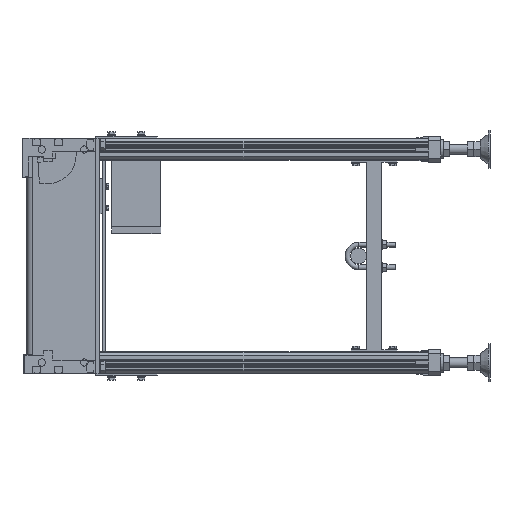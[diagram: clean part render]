
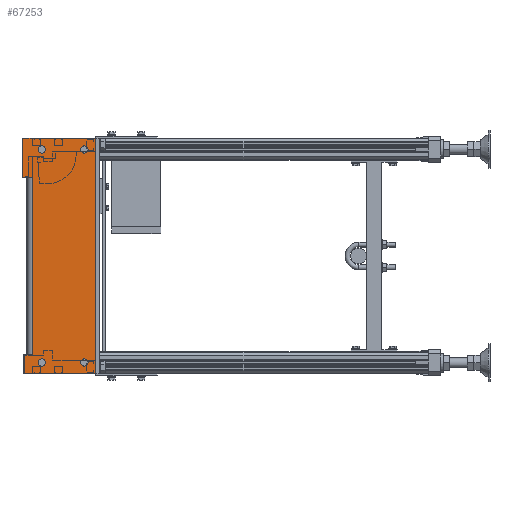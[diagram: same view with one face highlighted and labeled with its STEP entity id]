
A CAD part, left-side view. The second image highlights one B-rep face of the part: STEP entity #67253.
In plain terms, the highlighted planar face has unit normal (-1, 0, 0).
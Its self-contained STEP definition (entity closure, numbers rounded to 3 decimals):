
#822 = VECTOR ( 'NONE', #50526, 1000. ) ;
#983 = EDGE_CURVE ( 'NONE', #5136, #75963, #5072, .T. ) ;
#1112 = AXIS2_PLACEMENT_3D ( 'NONE', #12936, #57883, #18938 ) ;
#1408 = EDGE_CURVE ( 'NONE', #75963, #5136, #49116, .T. ) ;
#2576 = CARTESIAN_POINT ( 'NONE',  ( -1.2, -9.1, 143.75 ) ) ;
#2669 = VERTEX_POINT ( 'NONE', #2576 ) ;
#3603 = ORIENTED_EDGE ( 'NONE', *, *, #48620, .F. ) ;
#4556 = LINE ( 'NONE', #67458, #51443 ) ;
#4587 = CIRCLE ( 'NONE', #50123, 5.9 ) ;
#4970 = ORIENTED_EDGE ( 'NONE', *, *, #32607, .F. ) ;
#4993 = LINE ( 'NONE', #10324, #72219 ) ;
#5072 = CIRCLE ( 'NONE', #20540, 5.9 ) ;
#5136 = VERTEX_POINT ( 'NONE', #14091 ) ;
#5317 = ORIENTED_EDGE ( 'NONE', *, *, #17279, .F. ) ;
#5731 = LINE ( 'NONE', #27690, #29211 ) ;
#6319 = CARTESIAN_POINT ( 'NONE',  ( -1.2, -24.1, -156.25 ) ) ;
#6546 = EDGE_CURVE ( 'NONE', #48774, #63600, #28401, .T. ) ;
#6921 = CARTESIAN_POINT ( 'NONE',  ( -1.2, -24.1, 188.75 ) ) ;
#7342 = VERTEX_POINT ( 'NONE', #75513 ) ;
#7698 = CIRCLE ( 'NONE', #76779, 5.9 ) ;
#8078 = FACE_BOUND ( 'NONE', #41870, .T. ) ;
#9465 = ORIENTED_EDGE ( 'NONE', *, *, #6546, .F. ) ;
#10324 = CARTESIAN_POINT ( 'NONE',  ( -1.2, 6.4, 143.75 ) ) ;
#12306 = CARTESIAN_POINT ( 'NONE',  ( -1.2, 6.4, 207.25 ) ) ;
#12530 = AXIS2_PLACEMENT_3D ( 'NONE', #55651, #16384, #74749 ) ;
#12936 = CARTESIAN_POINT ( 'NONE',  ( -1.2, -93.1, -156.25 ) ) ;
#12990 = VERTEX_POINT ( 'NONE', #46345 ) ;
#13634 = VERTEX_POINT ( 'NONE', #51428 ) ;
#14091 = CARTESIAN_POINT ( 'NONE',  ( -1.2, -93.1, 194.65 ) ) ;
#14435 = ORIENTED_EDGE ( 'NONE', *, *, #82690, .F. ) ;
#15644 = AXIS2_PLACEMENT_3D ( 'NONE', #58422, #33199, #19467 ) ;
#15927 = DIRECTION ( 'NONE',  ( 0., -1., 0. ) ) ;
#16384 = DIRECTION ( 'NONE',  ( -1., 0., 0. ) ) ;
#17279 = EDGE_CURVE ( 'NONE', #18487, #40413, #7698, .T. ) ;
#17378 = CARTESIAN_POINT ( 'NONE',  ( -1.2, 4.4, -174.75 ) ) ;
#17420 = DIRECTION ( 'NONE',  ( 0., 0., 1. ) ) ;
#18487 = VERTEX_POINT ( 'NONE', #74914 ) ;
#18793 = EDGE_CURVE ( 'NONE', #13634, #48774, #65510, .T. ) ;
#18938 = DIRECTION ( 'NONE',  ( 0., 0., -1. ) ) ;
#19467 = DIRECTION ( 'NONE',  ( 0., 0., 1. ) ) ;
#20540 = AXIS2_PLACEMENT_3D ( 'NONE', #76185, #57079, #37237 ) ;
#20704 = CARTESIAN_POINT ( 'NONE',  ( -1.2, 6.4, 143.75 ) ) ;
#22334 = EDGE_CURVE ( 'NONE', #75127, #2669, #66317, .T. ) ;
#22483 = ORIENTED_EDGE ( 'NONE', *, *, #50871, .F. ) ;
#23143 = ORIENTED_EDGE ( 'NONE', *, *, #22334, .F. ) ;
#24041 = EDGE_CURVE ( 'NONE', #74984, #75127, #4556, .T. ) ;
#25556 = CARTESIAN_POINT ( 'NONE',  ( -1.2, -24.1, 194.65 ) ) ;
#26336 = DIRECTION ( 'NONE',  ( 0., 0., 1. ) ) ;
#26438 = FACE_BOUND ( 'NONE', #70933, .T. ) ;
#27690 = CARTESIAN_POINT ( 'NONE',  ( -1.2, -9.1, 143.75 ) ) ;
#27872 = CARTESIAN_POINT ( 'NONE',  ( -1.2, -93.1, -150.35 ) ) ;
#28401 = LINE ( 'NONE', #84108, #822 ) ;
#28476 = FACE_OUTER_BOUND ( 'NONE', #71378, .T. ) ;
#29211 = VECTOR ( 'NONE', #40491, 1000. ) ;
#30230 = DIRECTION ( 'NONE',  ( 0., 0., 1. ) ) ;
#30493 = FACE_BOUND ( 'NONE', #62812, .T. ) ;
#30800 = CARTESIAN_POINT ( 'NONE',  ( -1.2, -24.1, 182.85 ) ) ;
#31086 = ORIENTED_EDGE ( 'NONE', *, *, #24041, .F. ) ;
#31500 = ORIENTED_EDGE ( 'NONE', *, *, #69670, .F. ) ;
#32257 = CARTESIAN_POINT ( 'NONE',  ( -1.2, -111.6, -174.75 ) ) ;
#32572 = LINE ( 'NONE', #12306, #55918 ) ;
#32607 = EDGE_CURVE ( 'NONE', #44415, #49728, #79961, .T. ) ;
#32618 = ORIENTED_EDGE ( 'NONE', *, *, #69532, .F. ) ;
#33199 = DIRECTION ( 'NONE',  ( -1., 0., 0. ) ) ;
#34467 = ORIENTED_EDGE ( 'NONE', *, *, #39818, .F. ) ;
#34523 = DIRECTION ( 'NONE',  ( -1., 0., 0. ) ) ;
#34727 = DIRECTION ( 'NONE',  ( -1., 0., 0. ) ) ;
#37237 = DIRECTION ( 'NONE',  ( 0., 0., 1. ) ) ;
#39044 = DIRECTION ( 'NONE',  ( 0., 0., 1. ) ) ;
#39818 = EDGE_CURVE ( 'NONE', #60370, #12990, #62312, .T. ) ;
#40413 = VERTEX_POINT ( 'NONE', #66148 ) ;
#40491 = DIRECTION ( 'NONE',  ( 0., 1., 0. ) ) ;
#41254 = AXIS2_PLACEMENT_3D ( 'NONE', #41509, #34727, #54278 ) ;
#41469 = VECTOR ( 'NONE', #30230, 1000. ) ;
#41509 = CARTESIAN_POINT ( 'NONE',  ( -1.2, -93.1, -156.25 ) ) ;
#41857 = CARTESIAN_POINT ( 'NONE',  ( -1.2, -24.1, -156.25 ) ) ;
#41870 = EDGE_LOOP ( 'NONE', ( #42867, #70307 ) ) ;
#42867 = ORIENTED_EDGE ( 'NONE', *, *, #1408, .F. ) ;
#43312 = DIRECTION ( 'NONE',  ( 0., 0., 1. ) ) ;
#44141 = ORIENTED_EDGE ( 'NONE', *, *, #49743, .F. ) ;
#44347 = CARTESIAN_POINT ( 'NONE',  ( -1.2, 4.4, -174.75 ) ) ;
#44415 = VERTEX_POINT ( 'NONE', #25556 ) ;
#45089 = DIRECTION ( 'NONE',  ( -1., 0., 0. ) ) ;
#45936 = ORIENTED_EDGE ( 'NONE', *, *, #18793, .F. ) ;
#46345 = CARTESIAN_POINT ( 'NONE',  ( -1.2, -93.1, -162.15 ) ) ;
#47294 = EDGE_CURVE ( 'NONE', #7342, #13634, #32572, .T. ) ;
#48202 = VECTOR ( 'NONE', #71446, 1000. ) ;
#48620 = EDGE_CURVE ( 'NONE', #83892, #7342, #4993, .T. ) ;
#48774 = VERTEX_POINT ( 'NONE', #32257 ) ;
#49116 = CIRCLE ( 'NONE', #15644, 5.9 ) ;
#49728 = VERTEX_POINT ( 'NONE', #30800 ) ;
#49743 = EDGE_CURVE ( 'NONE', #63600, #74984, #61736, .T. ) ;
#50123 = AXIS2_PLACEMENT_3D ( 'NONE', #6319, #45089, #64667 ) ;
#50277 = AXIS2_PLACEMENT_3D ( 'NONE', #60912, #81986, #43312 ) ;
#50526 = DIRECTION ( 'NONE',  ( 0., 1., 0. ) ) ;
#50871 = EDGE_CURVE ( 'NONE', #40413, #18487, #4587, .T. ) ;
#51428 = CARTESIAN_POINT ( 'NONE',  ( -1.2, -111.6, 207.25 ) ) ;
#51443 = VECTOR ( 'NONE', #15927, 1000. ) ;
#54278 = DIRECTION ( 'NONE',  ( 0., 0., -1. ) ) ;
#55538 = CIRCLE ( 'NONE', #50277, 5.9 ) ;
#55651 = CARTESIAN_POINT ( 'NONE',  ( -1.2, 0., 0. ) ) ;
#55918 = VECTOR ( 'NONE', #70908, 1000. ) ;
#57079 = DIRECTION ( 'NONE',  ( -1., 0., 0. ) ) ;
#57223 = CARTESIAN_POINT ( 'NONE',  ( -1.2, -111.6, -174.75 ) ) ;
#57883 = DIRECTION ( 'NONE',  ( -1., 0., 0. ) ) ;
#58422 = CARTESIAN_POINT ( 'NONE',  ( -1.2, -93.1, 188.75 ) ) ;
#58692 = CIRCLE ( 'NONE', #1112, 5.9 ) ;
#58707 = EDGE_LOOP ( 'NONE', ( #14435, #34467 ) ) ;
#58906 = CARTESIAN_POINT ( 'NONE',  ( -1.2, -9.1, -143.75 ) ) ;
#60370 = VERTEX_POINT ( 'NONE', #27872 ) ;
#60912 = CARTESIAN_POINT ( 'NONE',  ( -1.2, -24.1, 188.75 ) ) ;
#61736 = LINE ( 'NONE', #17378, #41469 ) ;
#62312 = CIRCLE ( 'NONE', #41254, 5.9 ) ;
#62332 = CARTESIAN_POINT ( 'NONE',  ( -1.2, -93.1, 182.85 ) ) ;
#62812 = EDGE_LOOP ( 'NONE', ( #31500, #4970 ) ) ;
#63600 = VERTEX_POINT ( 'NONE', #44347 ) ;
#64667 = DIRECTION ( 'NONE',  ( 0., 0., -1. ) ) ;
#65510 = LINE ( 'NONE', #57223, #48202 ) ;
#65815 = DIRECTION ( 'NONE',  ( -1., 0., 0. ) ) ;
#66148 = CARTESIAN_POINT ( 'NONE',  ( -1.2, -24.1, -150.35 ) ) ;
#66317 = LINE ( 'NONE', #58906, #73407 ) ;
#67253 = ADVANCED_FACE ( 'NONE', ( #26438, #69151, #8078, #30493, #28476 ), #81296, .T. ) ;
#67458 = CARTESIAN_POINT ( 'NONE',  ( -1.2, 4.4, -143.75 ) ) ;
#69151 = FACE_BOUND ( 'NONE', #58707, .T. ) ;
#69532 = EDGE_CURVE ( 'NONE', #2669, #83892, #5731, .T. ) ;
#69670 = EDGE_CURVE ( 'NONE', #49728, #44415, #55538, .T. ) ;
#70307 = ORIENTED_EDGE ( 'NONE', *, *, #983, .F. ) ;
#70908 = DIRECTION ( 'NONE',  ( 0., -1., 0. ) ) ;
#70933 = EDGE_LOOP ( 'NONE', ( #5317, #22483 ) ) ;
#71378 = EDGE_LOOP ( 'NONE', ( #9465, #45936, #83486, #3603, #32618, #23143, #31086, #44141 ) ) ;
#71446 = DIRECTION ( 'NONE',  ( 0., 0., -1. ) ) ;
#72219 = VECTOR ( 'NONE', #17420, 1000. ) ;
#73407 = VECTOR ( 'NONE', #39044, 1000. ) ;
#74749 = DIRECTION ( 'NONE',  ( 0., 0., 1. ) ) ;
#74914 = CARTESIAN_POINT ( 'NONE',  ( -1.2, -24.1, -162.15 ) ) ;
#74984 = VERTEX_POINT ( 'NONE', #77895 ) ;
#75127 = VERTEX_POINT ( 'NONE', #79847 ) ;
#75513 = CARTESIAN_POINT ( 'NONE',  ( -1.2, 6.4, 207.25 ) ) ;
#75963 = VERTEX_POINT ( 'NONE', #62332 ) ;
#76185 = CARTESIAN_POINT ( 'NONE',  ( -1.2, -93.1, 188.75 ) ) ;
#76779 = AXIS2_PLACEMENT_3D ( 'NONE', #41857, #34523, #79980 ) ;
#77895 = CARTESIAN_POINT ( 'NONE',  ( -1.2, 4.4, -143.75 ) ) ;
#79847 = CARTESIAN_POINT ( 'NONE',  ( -1.2, -9.1, -143.75 ) ) ;
#79961 = CIRCLE ( 'NONE', #84338, 5.9 ) ;
#79980 = DIRECTION ( 'NONE',  ( 0., 0., -1. ) ) ;
#81296 = PLANE ( 'NONE',  #12530 ) ;
#81986 = DIRECTION ( 'NONE',  ( -1., 0., 0. ) ) ;
#82690 = EDGE_CURVE ( 'NONE', #12990, #60370, #58692, .T. ) ;
#83486 = ORIENTED_EDGE ( 'NONE', *, *, #47294, .F. ) ;
#83892 = VERTEX_POINT ( 'NONE', #20704 ) ;
#84108 = CARTESIAN_POINT ( 'NONE',  ( -1.2, 4.4, -174.75 ) ) ;
#84338 = AXIS2_PLACEMENT_3D ( 'NONE', #6921, #65815, #26336 ) ;
